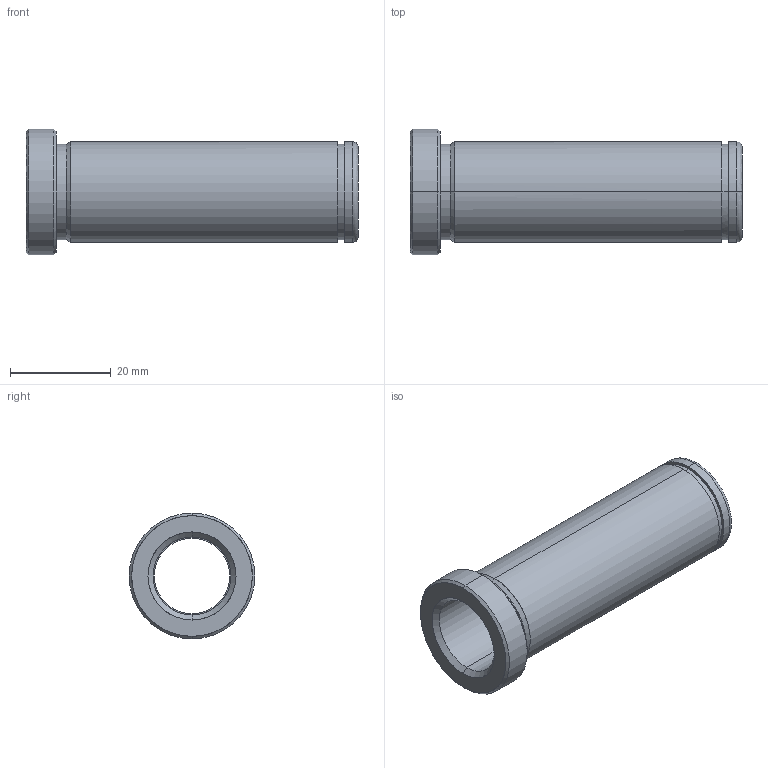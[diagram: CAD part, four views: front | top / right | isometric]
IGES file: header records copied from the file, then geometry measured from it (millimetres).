
Start section: START RECORD GO HERE.
Global section: file name: 553-15X66.igs; native system: DASSAULT SYSTEMES CATIA V5 R20 - www.3ds.com; preprocessor: CATIA Version 5 Release 20 ; author: Utente; organization: NB04-ASUS; date: 20210521.203541; units: millimetre
Bounding box: 66 x 25 x 25 mm (x, y, z)
Surface area: 7968.8 mm2 (no closed solid volume)
Topology: 0 solids, 0 shells, 31 faces, 196 edges, 196 vertices
Faces by surface type: revolution 26, plane 5
